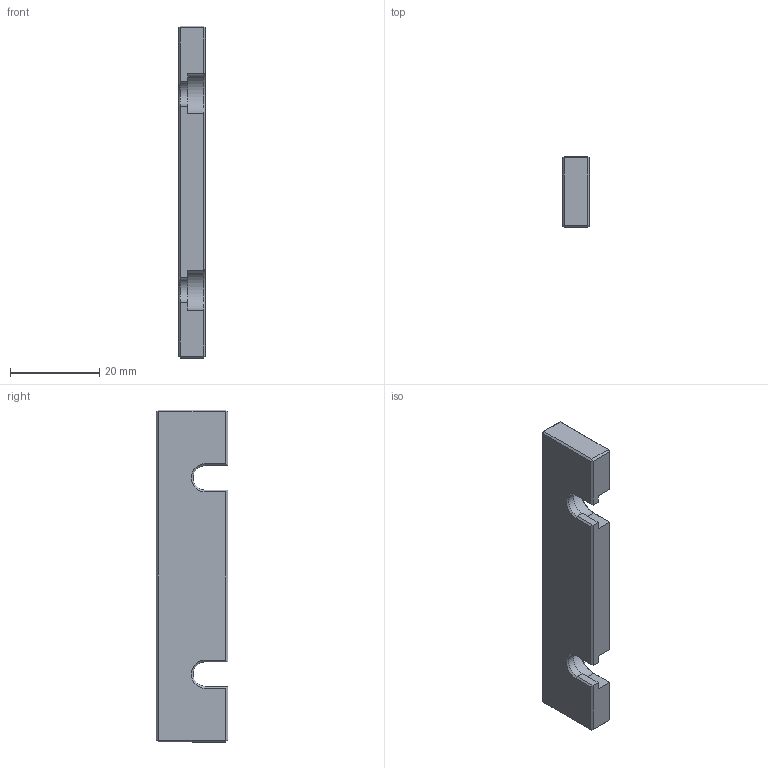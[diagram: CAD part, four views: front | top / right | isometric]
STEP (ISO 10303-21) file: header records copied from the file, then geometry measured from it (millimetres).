
FILE_DESCRIPTION (( 'STEP AP203' ), '1' );
FILE_NAME ('61M492220.STEP', '2022-07-22T04:37:03', ( '' ), ( '' ), 'SwSTEP 2.0', 'SolidWorks 2020', '' );
FILE_SCHEMA (( 'CONFIG_CONTROL_DESIGN' ));
Length unit declared in the file: millimetre
Products named in the file (1): 61M492220
Bounding box: 6 x 16 x 74.4 mm (x, y, z)
Volume: 6335.4 mm3; surface area: 3377.4 mm2
Topology: 1 solids, 1 shells, 58 faces, 136 edges, 80 vertices
Faces by surface type: plane 50, cylinder 4, cone 4
Entity records: 1673 total; most frequent: CARTESIAN_POINT 275, ORIENTED_EDGE 272, DIRECTION 266, EDGE_CURVE 136, VECTOR 124, LINE 124, VERTEX_POINT 80, AXIS2_PLACEMENT_3D 71
